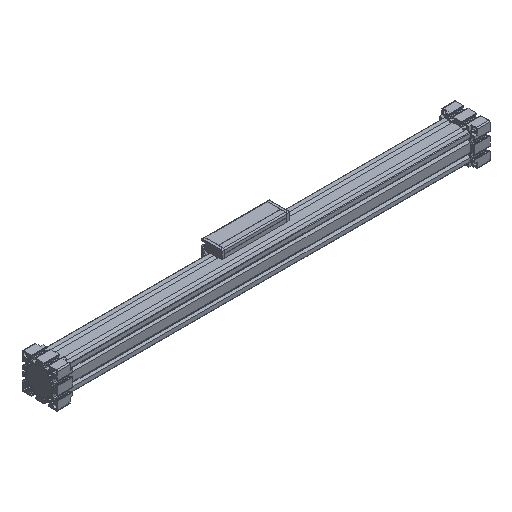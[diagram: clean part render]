
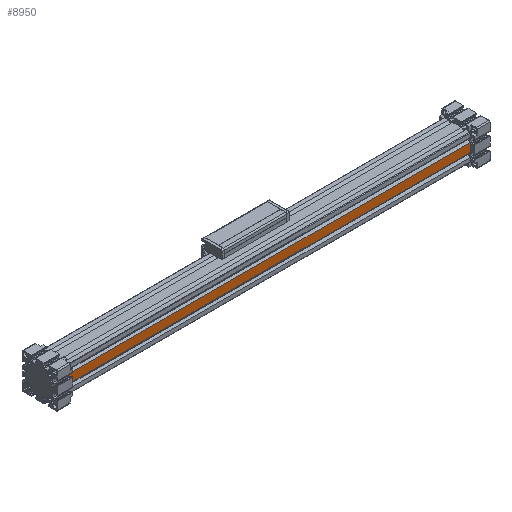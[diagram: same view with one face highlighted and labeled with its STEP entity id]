
A CAD part, isometric view. The second image highlights one B-rep face of the part: STEP entity #8950.
In plain terms, the highlighted planar face has unit normal (0, -1, 0).
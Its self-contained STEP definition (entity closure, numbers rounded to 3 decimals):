
#1248 = CARTESIAN_POINT ( 'NONE',  ( 930., -30., 10. ) ) ;
#2654 = VECTOR ( 'NONE', #32183, 1000. ) ;
#2897 = EDGE_CURVE ( 'NONE', #21208, #31355, #25818, .T. ) ;
#3335 = CARTESIAN_POINT ( 'NONE',  ( 0., -30., -10. ) ) ;
#3709 = EDGE_CURVE ( 'NONE', #18392, #21208, #22136, .T. ) ;
#5273 = VECTOR ( 'NONE', #22379, 1000. ) ;
#7420 = VERTEX_POINT ( 'NONE', #13795 ) ;
#8360 = CARTESIAN_POINT ( 'NONE',  ( 930., -30., -10. ) ) ;
#8950 = ADVANCED_FACE ( 'NONE', ( #27477 ), #9377, .F. ) ;
#9377 = PLANE ( 'NONE',  #12612 ) ;
#9501 = DIRECTION ( 'NONE',  ( 0., 1., 0. ) ) ;
#10957 = DIRECTION ( 'NONE',  ( -1., 0., 0. ) ) ;
#12612 = AXIS2_PLACEMENT_3D ( 'NONE', #24907, #9501, #27523 ) ;
#12750 = LINE ( 'NONE', #8360, #32519 ) ;
#13795 = CARTESIAN_POINT ( 'NONE',  ( 930., -30., -10. ) ) ;
#14149 = EDGE_CURVE ( 'NONE', #18392, #7420, #23203, .T. ) ;
#15327 = VECTOR ( 'NONE', #26939, 1000. ) ;
#18119 = CARTESIAN_POINT ( 'NONE',  ( 930., -30., 10. ) ) ;
#18392 = VERTEX_POINT ( 'NONE', #18119 ) ;
#18490 = ORIENTED_EDGE ( 'NONE', *, *, #3709, .T. ) ;
#19341 = ORIENTED_EDGE ( 'NONE', *, *, #19479, .F. ) ;
#19479 = EDGE_CURVE ( 'NONE', #7420, #31355, #12750, .T. ) ;
#21208 = VERTEX_POINT ( 'NONE', #29088 ) ;
#22135 = EDGE_LOOP ( 'NONE', ( #26615, #19341, #25771, #18490 ) ) ;
#22136 = LINE ( 'NONE', #1248, #15327 ) ;
#22379 = DIRECTION ( 'NONE',  ( 0., 0., -1. ) ) ;
#23203 = LINE ( 'NONE', #24344, #2654 ) ;
#24344 = CARTESIAN_POINT ( 'NONE',  ( 930., -30., 10. ) ) ;
#24907 = CARTESIAN_POINT ( 'NONE',  ( 930., -30., 10. ) ) ;
#24996 = CARTESIAN_POINT ( 'NONE',  ( 0., -30., 10. ) ) ;
#25771 = ORIENTED_EDGE ( 'NONE', *, *, #14149, .F. ) ;
#25818 = LINE ( 'NONE', #24996, #5273 ) ;
#26615 = ORIENTED_EDGE ( 'NONE', *, *, #2897, .T. ) ;
#26939 = DIRECTION ( 'NONE',  ( -1., 0., 0. ) ) ;
#27477 = FACE_OUTER_BOUND ( 'NONE', #22135, .T. ) ;
#27523 = DIRECTION ( 'NONE',  ( 0., 0., 1. ) ) ;
#29088 = CARTESIAN_POINT ( 'NONE',  ( 0., -30., 10. ) ) ;
#31355 = VERTEX_POINT ( 'NONE', #3335 ) ;
#32183 = DIRECTION ( 'NONE',  ( 0., 0., -1. ) ) ;
#32519 = VECTOR ( 'NONE', #10957, 1000. ) ;
